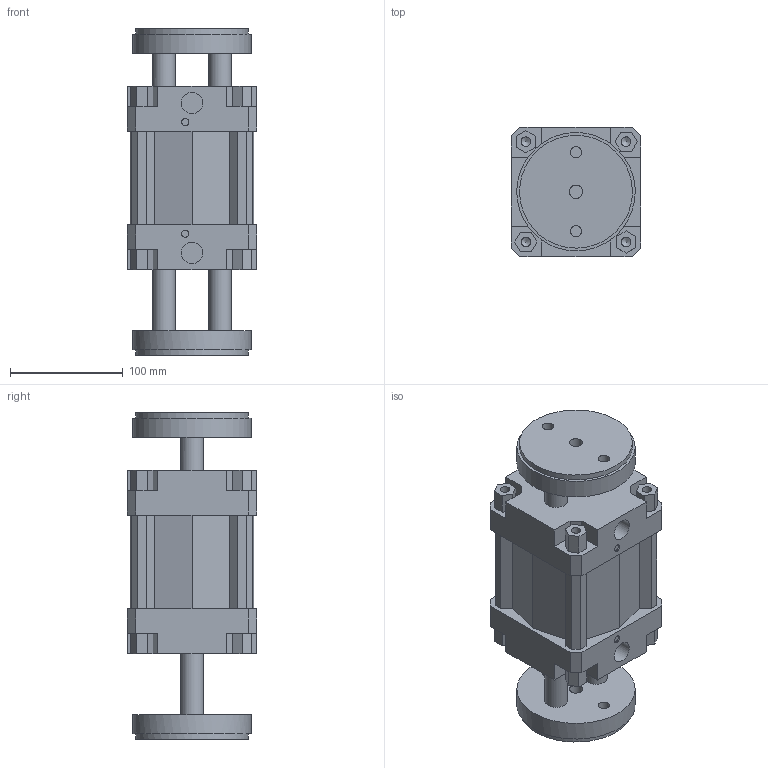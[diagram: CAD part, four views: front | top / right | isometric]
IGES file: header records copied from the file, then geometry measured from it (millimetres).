
Global section: file name: 132#_100_0025_06; native system: Autodesk Inventor 2014; preprocessor: unknown; author: A. Manieri; date: 20161006.163608; units: millimetre
Bounding box: 115 x 115 x 290 mm (x, y, z)
Volume: 2060241.6 mm3; surface area: 276602 mm2
Topology: 2 solids, 2 shells, 190 faces, 518 edges, 354 vertices
Faces by surface type: bspline 190
